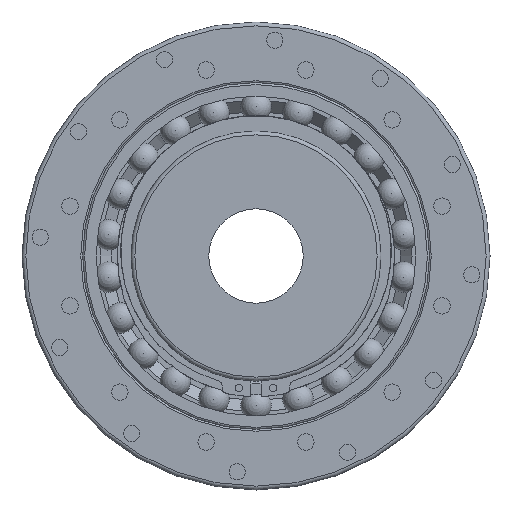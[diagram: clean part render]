
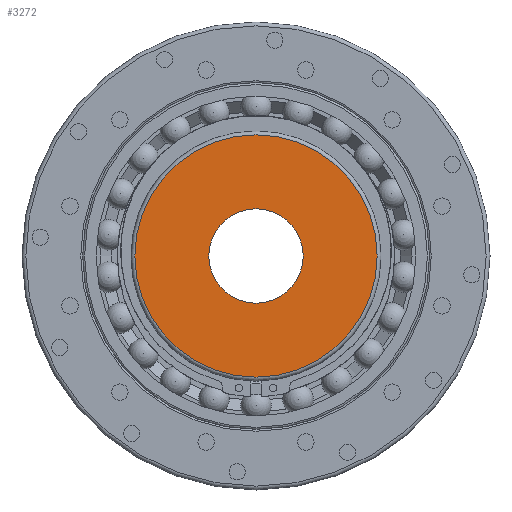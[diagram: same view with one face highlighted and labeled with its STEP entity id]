
A CAD part, left-side view. The second image highlights one B-rep face of the part: STEP entity #3272.
In plain terms, the highlighted planar face has unit normal (-1, 0, 0).
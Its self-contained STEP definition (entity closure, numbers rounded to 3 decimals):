
#474=PLANE('',#3954);
#1140=ORIENTED_EDGE('',*,*,#1550,.F.);
#1141=ORIENTED_EDGE('',*,*,#1557,.T.);
#1550=EDGE_CURVE('',#1872,#1872,#2104,.T.);
#1557=EDGE_CURVE('',#1876,#1876,#2105,.T.);
#1872=VERTEX_POINT('',#6066);
#1876=VERTEX_POINT('',#6095);
#2104=CIRCLE('',#3944,24.5);
#2105=CIRCLE('',#3953,62.9);
#2514=EDGE_LOOP('',(#1140));
#2515=EDGE_LOOP('',(#1141));
#2957=FACE_BOUND('',#2514,.T.);
#2958=FACE_BOUND('',#2515,.T.);
#3272=ADVANCED_FACE('',(#2957,#2958),#474,.F.);
#3944=AXIS2_PLACEMENT_3D('',#6065,#4943,#4944);
#3953=AXIS2_PLACEMENT_3D('',#6094,#4966,#4967);
#3954=AXIS2_PLACEMENT_3D('',#6096,#4968,#4969);
#4943=DIRECTION('',(-1.,0.,0.));
#4944=DIRECTION('',(0.,0.,1.));
#4966=DIRECTION('',(-1.,0.,0.));
#4967=DIRECTION('',(0.,0.,1.));
#4968=DIRECTION('',(1.,0.,0.));
#4969=DIRECTION('',(0.,0.,-1.));
#6065=CARTESIAN_POINT('',(-13.35,0.,0.));
#6066=CARTESIAN_POINT('',(-13.35,0.,24.5));
#6094=CARTESIAN_POINT('',(-13.35,0.,0.));
#6095=CARTESIAN_POINT('',(-13.35,0.,62.9));
#6096=CARTESIAN_POINT('',(-13.35,0.,64.9));
